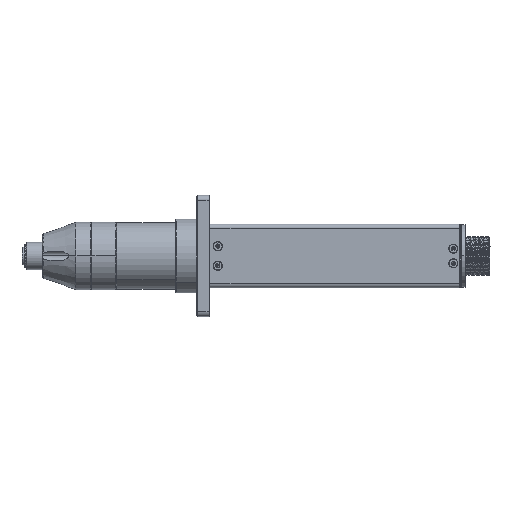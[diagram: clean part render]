
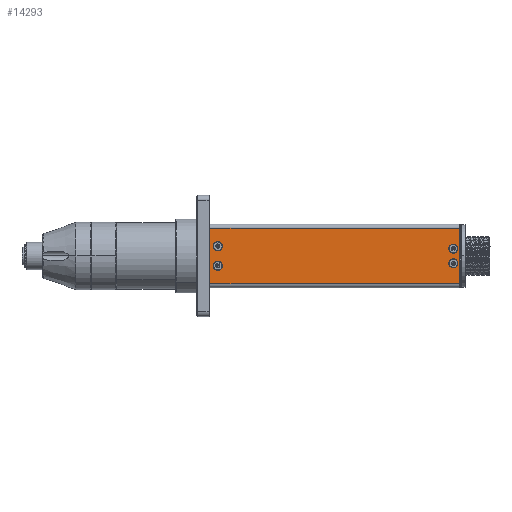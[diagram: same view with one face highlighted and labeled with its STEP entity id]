
A CAD part, top view. The second image highlights one B-rep face of the part: STEP entity #14293.
In plain terms, the highlighted planar face has unit normal (0, 0, 1).
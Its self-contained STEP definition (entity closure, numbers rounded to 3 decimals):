
#184 = DIRECTION ( 'NONE',  ( 1., 0., 0. ) ) ;
#196 = ORIENTED_EDGE ( 'NONE', *, *, #13625, .F. ) ;
#523 = VECTOR ( 'NONE', #26653, 1000. ) ;
#825 = CARTESIAN_POINT ( 'NONE',  ( 218.15, -4.5, 19.4 ) ) ;
#1031 = DIRECTION ( 'NONE',  ( 1., 0., 0. ) ) ;
#1245 = FACE_OUTER_BOUND ( 'NONE', #8345, .T. ) ;
#1416 = VERTEX_POINT ( 'NONE', #4602 ) ;
#2304 = CARTESIAN_POINT ( 'NONE',  ( 77.1, 6., 19.4 ) ) ;
#2585 = CARTESIAN_POINT ( 'NONE',  ( 77.1, -6., 19.4 ) ) ;
#2629 = LINE ( 'NONE', #26800, #523 ) ;
#2956 = CARTESIAN_POINT ( 'NONE',  ( 79.85, 6., 19.4 ) ) ;
#2968 = CIRCLE ( 'NONE', #6521, 2.75 ) ;
#3175 = CIRCLE ( 'NONE', #29211, 2.75 ) ;
#3467 = DIRECTION ( 'NONE',  ( 1., 0., 0. ) ) ;
#3557 = EDGE_LOOP ( 'NONE', ( #19400, #5935 ) ) ;
#3613 = AXIS2_PLACEMENT_3D ( 'NONE', #17681, #24413, #1031 ) ;
#3648 = LINE ( 'NONE', #27478, #15053 ) ;
#3749 = CARTESIAN_POINT ( 'NONE',  ( 148.55, 0., 19.4 ) ) ;
#3900 = VERTEX_POINT ( 'NONE', #17342 ) ;
#4424 = DIRECTION ( 'NONE',  ( 1., 0., 0. ) ) ;
#4506 = VERTEX_POINT ( 'NONE', #26590 ) ;
#4602 = CARTESIAN_POINT ( 'NONE',  ( 223.65, -4.5, 19.4 ) ) ;
#5581 = DIRECTION ( 'NONE',  ( 1., 0., 0. ) ) ;
#5772 = CIRCLE ( 'NONE', #10282, 2.75 ) ;
#5880 = DIRECTION ( 'NONE',  ( 0., 0., 1. ) ) ;
#5935 = ORIENTED_EDGE ( 'NONE', *, *, #21648, .F. ) ;
#6167 = DIRECTION ( 'NONE',  ( 0., 0., 1. ) ) ;
#6313 = ORIENTED_EDGE ( 'NONE', *, *, #22987, .F. ) ;
#6314 = DIRECTION ( 'NONE',  ( 0., 0., 1. ) ) ;
#6521 = AXIS2_PLACEMENT_3D ( 'NONE', #2585, #10395, #15106 ) ;
#6586 = CARTESIAN_POINT ( 'NONE',  ( 224.8, -17., 19.4 ) ) ;
#7970 = AXIS2_PLACEMENT_3D ( 'NONE', #3749, #11426, #9089 ) ;
#7982 = EDGE_CURVE ( 'NONE', #14296, #18958, #22664, .T. ) ;
#8345 = EDGE_LOOP ( 'NONE', ( #23238, #23665, #20346, #9773 ) ) ;
#8468 = ORIENTED_EDGE ( 'NONE', *, *, #17116, .F. ) ;
#9089 = DIRECTION ( 'NONE',  ( -1., 0., 0. ) ) ;
#9401 = VERTEX_POINT ( 'NONE', #825 ) ;
#9404 = EDGE_CURVE ( 'NONE', #24178, #10884, #3648, .T. ) ;
#9591 = AXIS2_PLACEMENT_3D ( 'NONE', #2304, #11422, #30710 ) ;
#9773 = ORIENTED_EDGE ( 'NONE', *, *, #13184, .T. ) ;
#10193 = AXIS2_PLACEMENT_3D ( 'NONE', #30301, #6314, #4424 ) ;
#10282 = AXIS2_PLACEMENT_3D ( 'NONE', #27342, #6167, #3467 ) ;
#10297 = CARTESIAN_POINT ( 'NONE',  ( 79.85, -6., 19.4 ) ) ;
#10395 = DIRECTION ( 'NONE',  ( 0., 0., 1. ) ) ;
#10641 = CARTESIAN_POINT ( 'NONE',  ( 220.9, -4.5, 19.4 ) ) ;
#10809 = VERTEX_POINT ( 'NONE', #13022 ) ;
#10812 = CARTESIAN_POINT ( 'NONE',  ( 223.65, 4.5, 19.4 ) ) ;
#10864 = DIRECTION ( 'NONE',  ( 0., -1., 0. ) ) ;
#10884 = VERTEX_POINT ( 'NONE', #6586 ) ;
#10929 = CARTESIAN_POINT ( 'NONE',  ( 218.15, 4.5, 19.4 ) ) ;
#11422 = DIRECTION ( 'NONE',  ( 0., 0., 1. ) ) ;
#11426 = DIRECTION ( 'NONE',  ( 0., 0., -1. ) ) ;
#12136 = CARTESIAN_POINT ( 'NONE',  ( 148.55, 17., 19.4 ) ) ;
#12855 = EDGE_LOOP ( 'NONE', ( #196, #18162 ) ) ;
#12945 = CARTESIAN_POINT ( 'NONE',  ( 220.9, 4.5, 19.4 ) ) ;
#13022 = CARTESIAN_POINT ( 'NONE',  ( 74.35, 6., 19.4 ) ) ;
#13184 = EDGE_CURVE ( 'NONE', #24178, #4506, #24049, .T. ) ;
#13625 = EDGE_CURVE ( 'NONE', #1416, #9401, #15652, .T. ) ;
#13636 = CARTESIAN_POINT ( 'NONE',  ( 74.35, -6., 19.4 ) ) ;
#13718 = CIRCLE ( 'NONE', #10193, 2.75 ) ;
#13992 = EDGE_LOOP ( 'NONE', ( #26843, #8468 ) ) ;
#14293 = ADVANCED_FACE ( 'NONE', ( #15349, #25396, #23039, #15495, #1245 ), #25251, .F. ) ;
#14296 = VERTEX_POINT ( 'NONE', #13636 ) ;
#14452 = CARTESIAN_POINT ( 'NONE',  ( 77.1, 6., 19.4 ) ) ;
#15053 = VECTOR ( 'NONE', #10864, 1000. ) ;
#15106 = DIRECTION ( 'NONE',  ( 1., 0., 0. ) ) ;
#15349 = FACE_BOUND ( 'NONE', #13992, .T. ) ;
#15463 = EDGE_CURVE ( 'NONE', #3900, #4506, #24479, .T. ) ;
#15472 = DIRECTION ( 'NONE',  ( 0., 0., 1. ) ) ;
#15495 = FACE_BOUND ( 'NONE', #3557, .T. ) ;
#15652 = CIRCLE ( 'NONE', #30075, 2.75 ) ;
#16221 = VERTEX_POINT ( 'NONE', #10929 ) ;
#16537 = CARTESIAN_POINT ( 'NONE',  ( 224.8, 17., 19.4 ) ) ;
#16753 = ORIENTED_EDGE ( 'NONE', *, *, #7982, .F. ) ;
#17116 = EDGE_CURVE ( 'NONE', #10809, #17166, #17530, .T. ) ;
#17166 = VERTEX_POINT ( 'NONE', #2956 ) ;
#17342 = CARTESIAN_POINT ( 'NONE',  ( 72.3, -17., 19.4 ) ) ;
#17530 = CIRCLE ( 'NONE', #24050, 2.75 ) ;
#17681 = CARTESIAN_POINT ( 'NONE',  ( 77.1, -6., 19.4 ) ) ;
#18162 = ORIENTED_EDGE ( 'NONE', *, *, #19502, .F. ) ;
#18958 = VERTEX_POINT ( 'NONE', #10297 ) ;
#19303 = CARTESIAN_POINT ( 'NONE',  ( 72.3, 19.4, 19.4 ) ) ;
#19400 = ORIENTED_EDGE ( 'NONE', *, *, #20159, .F. ) ;
#19502 = EDGE_CURVE ( 'NONE', #9401, #1416, #13718, .T. ) ;
#20159 = EDGE_CURVE ( 'NONE', #29091, #16221, #3175, .T. ) ;
#20346 = ORIENTED_EDGE ( 'NONE', *, *, #9404, .F. ) ;
#21537 = DIRECTION ( 'NONE',  ( -1., 0., 0. ) ) ;
#21648 = EDGE_CURVE ( 'NONE', #16221, #29091, #5772, .T. ) ;
#21664 = EDGE_LOOP ( 'NONE', ( #6313, #16753 ) ) ;
#21676 = DIRECTION ( 'NONE',  ( 0., 0., 1. ) ) ;
#22083 = DIRECTION ( 'NONE',  ( 1., 0., 0. ) ) ;
#22664 = CIRCLE ( 'NONE', #3613, 2.75 ) ;
#22987 = EDGE_CURVE ( 'NONE', #18958, #14296, #2968, .T. ) ;
#23039 = FACE_BOUND ( 'NONE', #12855, .T. ) ;
#23121 = CIRCLE ( 'NONE', #9591, 2.75 ) ;
#23238 = ORIENTED_EDGE ( 'NONE', *, *, #15463, .F. ) ;
#23665 = ORIENTED_EDGE ( 'NONE', *, *, #25854, .T. ) ;
#24049 = LINE ( 'NONE', #12136, #30121 ) ;
#24050 = AXIS2_PLACEMENT_3D ( 'NONE', #14452, #21676, #184 ) ;
#24178 = VERTEX_POINT ( 'NONE', #16537 ) ;
#24413 = DIRECTION ( 'NONE',  ( 0., 0., 1. ) ) ;
#24479 = LINE ( 'NONE', #19303, #26964 ) ;
#25251 = PLANE ( 'NONE',  #7970 ) ;
#25396 = FACE_BOUND ( 'NONE', #21664, .T. ) ;
#25854 = EDGE_CURVE ( 'NONE', #3900, #10884, #2629, .T. ) ;
#26590 = CARTESIAN_POINT ( 'NONE',  ( 72.3, 17., 19.4 ) ) ;
#26653 = DIRECTION ( 'NONE',  ( 1., 0., 0. ) ) ;
#26800 = CARTESIAN_POINT ( 'NONE',  ( 148.55, -17., 19.4 ) ) ;
#26843 = ORIENTED_EDGE ( 'NONE', *, *, #27208, .F. ) ;
#26964 = VECTOR ( 'NONE', #28852, 1000. ) ;
#27208 = EDGE_CURVE ( 'NONE', #17166, #10809, #23121, .T. ) ;
#27342 = CARTESIAN_POINT ( 'NONE',  ( 220.9, 4.5, 19.4 ) ) ;
#27478 = CARTESIAN_POINT ( 'NONE',  ( 224.8, 19.4, 19.4 ) ) ;
#28852 = DIRECTION ( 'NONE',  ( 0., 1., 0. ) ) ;
#29091 = VERTEX_POINT ( 'NONE', #10812 ) ;
#29211 = AXIS2_PLACEMENT_3D ( 'NONE', #12945, #5880, #5581 ) ;
#30075 = AXIS2_PLACEMENT_3D ( 'NONE', #10641, #15472, #22083 ) ;
#30121 = VECTOR ( 'NONE', #21537, 1000. ) ;
#30301 = CARTESIAN_POINT ( 'NONE',  ( 220.9, -4.5, 19.4 ) ) ;
#30710 = DIRECTION ( 'NONE',  ( 1., 0., 0. ) ) ;
